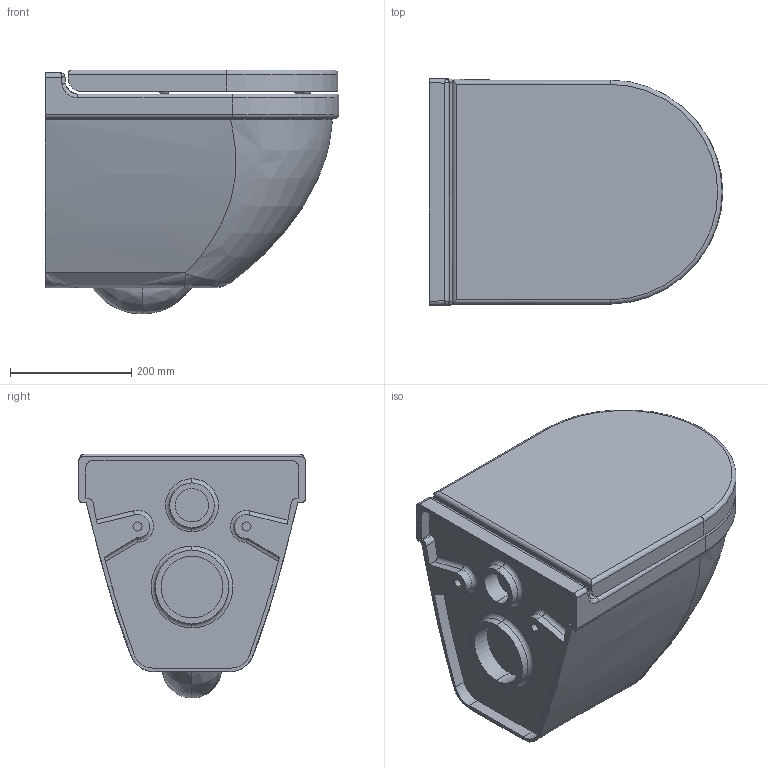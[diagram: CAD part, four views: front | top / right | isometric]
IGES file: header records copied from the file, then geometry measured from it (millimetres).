
Global section: file name: No Iges File Name specified; native system: Autodesk Inventor 2011; preprocessor: AutoDesk Inventor Iges Exporter R2011; author: Administrator; date: 20120110.141049; units: millimetre
Bounding box: 485.03 x 375 x 403.07 mm (x, y, z)
Volume: 30071892.3 mm3; surface area: 1308236.4 mm2
Topology: 6 solids, 6 shells, 212 faces, 498 edges, 309 vertices
Faces by surface type: plane 66, bspline 60, cylinder 41, revolution 36, torus 9
